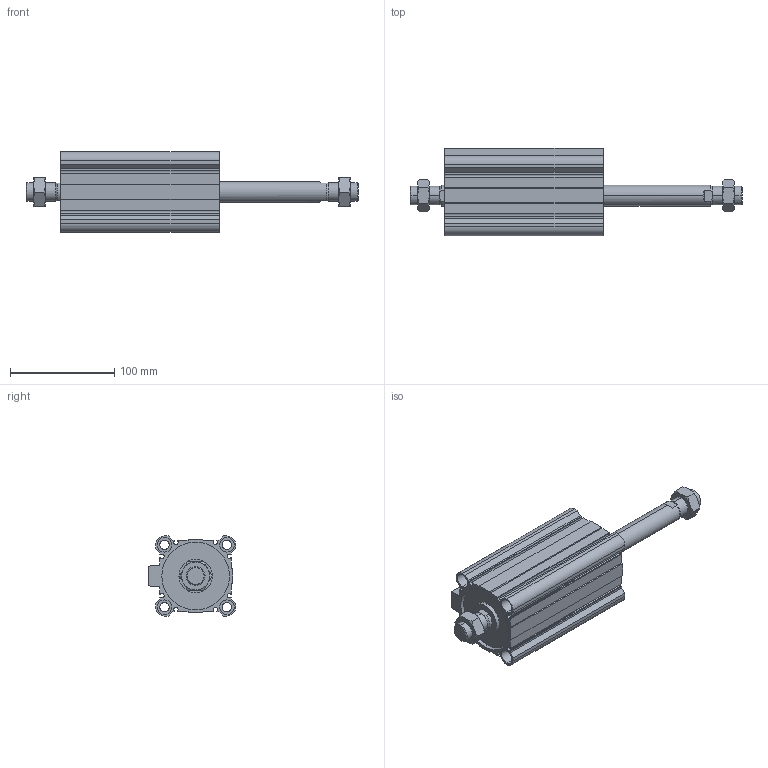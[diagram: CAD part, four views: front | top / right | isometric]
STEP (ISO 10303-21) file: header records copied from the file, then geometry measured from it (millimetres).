
FILE_DESCRIPTION (( 'STEP AP203' ), '1' );
FILE_NAME ('CCMB63-100M-P.STEP', '2020-08-10T11:52:16', ( '' ), ( '' ), 'SwSTEP 2.0', 'SolidWorks 2019', '' );
FILE_SCHEMA (( 'CONFIG_CONTROL_DESIGN' ));
Length unit declared in the file: millimetre
Products named in the file (1): CCMB63-100M-P
Bounding box: 319 x 84 x 77 mm (x, y, z)
Volume: 501912.4 mm3; surface area: 159169.7 mm2
Topology: 4 solids, 4 shells, 232 faces, 570 edges, 364 vertices
Faces by surface type: plane 110, cylinder 78, cone 44
Entity records: 7569 total; most frequent: CARTESIAN_POINT 1939, DIRECTION 1176, ORIENTED_EDGE 1140, EDGE_CURVE 570, AXIS2_PLACEMENT_3D 437, VERTEX_POINT 364, VECTOR 302, LINE 302
